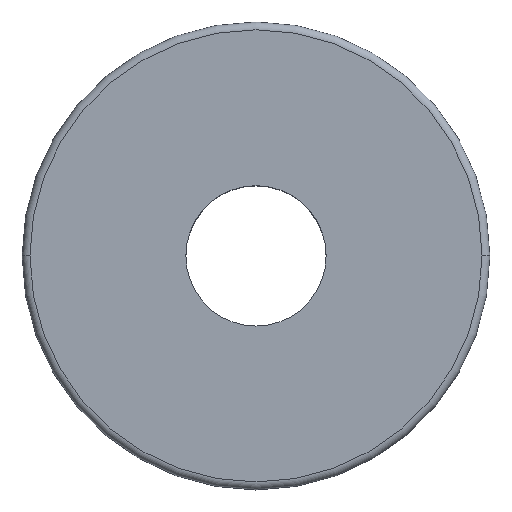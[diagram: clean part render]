
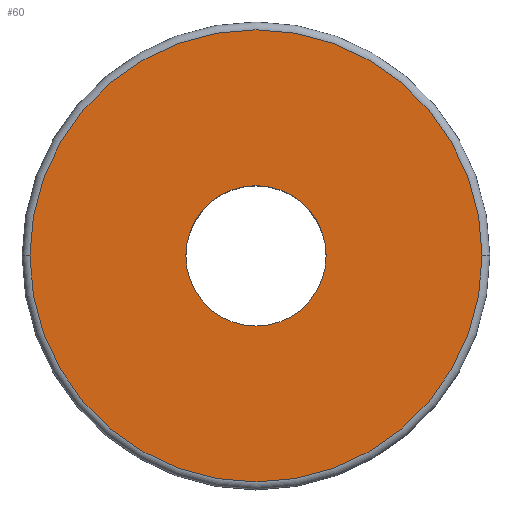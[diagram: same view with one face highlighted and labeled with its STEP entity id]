
A CAD part, top view. The second image highlights one B-rep face of the part: STEP entity #60.
In plain terms, the highlighted planar face has unit normal (0, 0, 1).
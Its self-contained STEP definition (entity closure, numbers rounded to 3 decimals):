
#32 = EDGE_CURVE ( 'NONE', #44, #57, #152, .T. ) ;
#34 = ORIENTED_EDGE ( 'NONE', *, *, #71, .F. ) ;
#35 = ORIENTED_EDGE ( 'NONE', *, *, #100, .F. ) ;
#41 = VERTEX_POINT ( 'NONE', #143 ) ;
#42 = VERTEX_POINT ( 'NONE', #157 ) ;
#44 = VERTEX_POINT ( 'NONE', #148 ) ;
#46 = ORIENTED_EDGE ( 'NONE', *, *, #73, .T. ) ;
#57 = VERTEX_POINT ( 'NONE', #287 ) ;
#60 = ADVANCED_FACE ( 'NONE', ( #285, #282 ), #210, .T. ) ;
#71 = EDGE_CURVE ( 'NONE', #41, #42, #230, .T. ) ;
#73 = EDGE_CURVE ( 'NONE', #57, #44, #221, .T. ) ;
#76 = EDGE_LOOP ( 'NONE', ( #46, #117 ) ) ;
#100 = EDGE_CURVE ( 'NONE', #42, #41, #250, .T. ) ;
#116 = EDGE_LOOP ( 'NONE', ( #34, #35 ) ) ;
#117 = ORIENTED_EDGE ( 'NONE', *, *, #32, .T. ) ;
#143 = CARTESIAN_POINT ( 'NONE',  ( -4.5, 0., 10. ) ) ;
#144 = AXIS2_PLACEMENT_3D ( 'NONE', #156, #161, #160 ) ;
#148 = CARTESIAN_POINT ( 'NONE',  ( -14.5, 0., 10. ) ) ;
#152 = CIRCLE ( 'NONE', #144, 14.5 ) ;
#156 = CARTESIAN_POINT ( 'NONE',  ( 0., 0., 10. ) ) ;
#157 = CARTESIAN_POINT ( 'NONE',  ( 4.5, 0., 10. ) ) ;
#160 = DIRECTION ( 'NONE',  ( 1., 0., 0. ) ) ;
#161 = DIRECTION ( 'NONE',  ( 0., 0., 1. ) ) ;
#197 = DIRECTION ( 'NONE',  ( 1., 0., 0. ) ) ;
#198 = DIRECTION ( 'NONE',  ( 0., 0., 1. ) ) ;
#199 = CARTESIAN_POINT ( 'NONE',  ( 0., 0., 10. ) ) ;
#210 = PLANE ( 'NONE',  #296 ) ;
#217 = DIRECTION ( 'NONE',  ( 1., 0., 0. ) ) ;
#218 = DIRECTION ( 'NONE',  ( 0., 0., 1. ) ) ;
#219 = CARTESIAN_POINT ( 'NONE',  ( 0., 0., 10. ) ) ;
#221 = CIRCLE ( 'NONE', #276, 14.5 ) ;
#230 = CIRCLE ( 'NONE', #232, 4.5 ) ;
#232 = AXIS2_PLACEMENT_3D ( 'NONE', #219, #218, #217 ) ;
#250 = CIRCLE ( 'NONE', #272, 4.5 ) ;
#272 = AXIS2_PLACEMENT_3D ( 'NONE', #199, #198, #197 ) ;
#273 = DIRECTION ( 'NONE',  ( 1., 0., 0. ) ) ;
#274 = DIRECTION ( 'NONE',  ( 0., 0., 1. ) ) ;
#275 = CARTESIAN_POINT ( 'NONE',  ( 0., 0., 10. ) ) ;
#276 = AXIS2_PLACEMENT_3D ( 'NONE', #275, #274, #273 ) ;
#277 = DIRECTION ( 'NONE',  ( 1., 0., 0. ) ) ;
#278 = DIRECTION ( 'NONE',  ( 0., 0., 1. ) ) ;
#282 = FACE_BOUND ( 'NONE', #116, .T. ) ;
#283 = CARTESIAN_POINT ( 'NONE',  ( 0., 0., 10. ) ) ;
#285 = FACE_OUTER_BOUND ( 'NONE', #76, .T. ) ;
#287 = CARTESIAN_POINT ( 'NONE',  ( 14.5, 0., 10. ) ) ;
#296 = AXIS2_PLACEMENT_3D ( 'NONE', #283, #278, #277 ) ;
